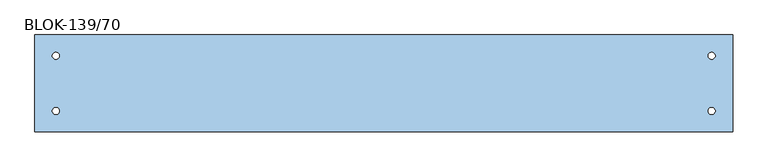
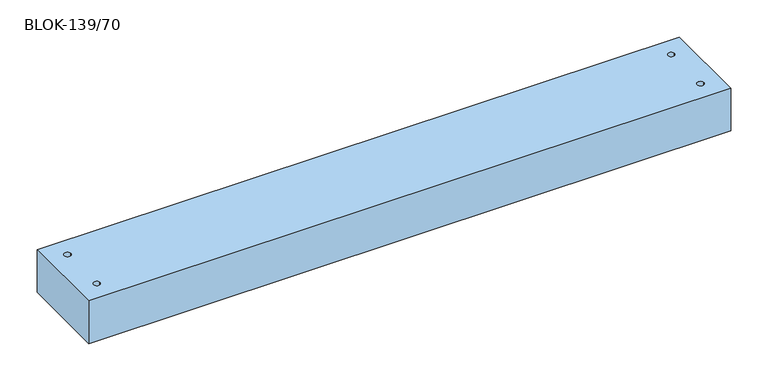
"""IFC4 building model written with IfcOpenShell, lengths in millimetres: window geometry, 30_NS_BLOk : BLOK-139/70."""

import ifcopenshell
import ifcopenshell.guid

model = None  # the IFC model being written
_history = None  # IfcOwnerHistory: only IFC2X3 demands one
_inside = {}  # id of a spatial element -> (the spatial element, [elements in it])
_under = {}  # id of a project, library or spatial element -> (it, [spatial elements below it])
_declared = {}  # id of a project -> (the project, [libraries it declares])
_typed = {}  # id of a type object -> (the type object, [elements of that type])
_made_of = {}  # id of a material, layer set ... -> (it, [elements and type objects made of it])


def new_model(schema):
    """Start an empty IFC model of exactly this schema.

    Asked for "IFC4X3", IfcOpenShell would pick the latest addendum, in which some entities
    have other attributes; the version numbers below select the first issue.
    IFC2X3 requires an IfcOwnerHistory on every rooted entity: one is made here for all.
    """
    global model, _history
    if schema == "IFC4X3":
        model = ifcopenshell.file(schema_version=(4, 3, 0, 0))
    else:
        model = ifcopenshell.file(schema=schema)
    _inside.clear()
    _under.clear()
    _declared.clear()
    _typed.clear()
    _made_of.clear()
    _history = None
    if model.schema == "IFC2X3":
        org = make("IfcOrganization", Name="unknown")
        user = make(
            "IfcPersonAndOrganization",
            ThePerson=make("IfcPerson", FamilyName="unknown"),
            TheOrganization=org,
        )
        app = make(
            "IfcApplication",
            ApplicationDeveloper=org,
            Version="unknown",
            ApplicationFullName="unknown",
            ApplicationIdentifier="unknown",
        )
        _history = make(
            "IfcOwnerHistory",
            OwningUser=user,
            OwningApplication=app,
            ChangeAction="ADDED",
            CreationDate=0,
        )
    return model


def make(cls, **values):
    """One entity of the class cls with the attributes given. An attribute that is None is left unset."""
    return model.create_entity(
        cls, **{name: value for name, value in values.items() if value is not None}
    )


def rooted(cls, **values):
    """An entity with a GlobalId (a new one), such as an element, a storey or a relation."""
    return make(cls, GlobalId=ifcopenshell.guid.new(), OwnerHistory=_history, **values)


def si_unit(unit_type, name, prefix=None):
    """IfcSIUnit, for example si_unit("LENGTHUNIT", "METRE", prefix="MILLI")."""
    return make("IfcSIUnit", UnitType=unit_type, Prefix=prefix, Name=name)


def assignment(units):
    """IfcUnitAssignment: the units of a project."""
    return None if units is None else make("IfcUnitAssignment", Units=units)


def point(xyz):
    """IfcCartesianPoint."""
    return None if xyz is None else make("IfcCartesianPoint", Coordinates=xyz)


def direction(xyz):
    """IfcDirection."""
    return None if xyz is None else make("IfcDirection", DirectionRatios=xyz)


def frame(location, z_axis=None, x_axis=None):
    """IfcAxis2Placement3D, a coordinate frame: its origin and axes. An axis left out is left unset."""
    return make(
        "IfcAxis2Placement3D",
        Location=point(location),
        Axis=direction(z_axis),
        RefDirection=direction(x_axis),
    )


def frame_2d(location, x_axis=None):
    """IfcAxis2Placement2D, a coordinate frame in the plane: its origin and x axis."""
    return make(
        "IfcAxis2Placement2D", Location=point(location), RefDirection=direction(x_axis)
    )


def origin():
    """The frame at (0, 0, 0) with its axes left unset."""
    return frame((0.0, 0.0, 0.0))


def origin_with_axes():
    """The frame at (0, 0, 0) with the z axis (0, 0, 1) and the x axis (1, 0, 0) written out."""
    return frame((0.0, 0.0, 0.0), z_axis=(0.0, 0.0, 1.0), x_axis=(1.0, 0.0, 0.0))


def place(relative_to, where):
    """IfcLocalPlacement: puts the frame where relative to a parent placement (None: the world)."""
    return make(
        "IfcLocalPlacement", PlacementRelTo=relative_to, RelativePlacement=where
    )


def context(
    kind, dimensions, precision=None, world=None, true_north=None, identifier=None
):
    """IfcGeometricRepresentationContext, for example the 3D "Model" context."""
    return make(
        "IfcGeometricRepresentationContext",
        ContextIdentifier=identifier,
        ContextType=kind,
        CoordinateSpaceDimension=dimensions,
        Precision=precision,
        WorldCoordinateSystem=world,
        TrueNorth=true_north,
    )


def project(units=None, contexts=None):
    """IfcProject with its units and contexts."""
    return rooted(
        "IfcProject",
        Name="project",
        RepresentationContexts=contexts,
        UnitsInContext=assignment(units),
    )


def spatial(cls, under=None, at=None, **own):
    """A site, building, storey or space (cls), placed at a placement, below another one or the project."""
    s = rooted(cls, ObjectPlacement=at, **own)
    if under is not None:
        _under.setdefault(under.id(), (under, []))[1].append(s)
    return s


def polyline(points):
    """IfcPolyline through the points."""
    return make("IfcPolyline", Points=[point(p) for p in points])


def circle_curve(where, radius):
    """IfcCircle in the frame where."""
    return make("IfcCircle", Position=where, Radius=radius)


def trimmed(basis, trim1, trim2, sense, master):
    """IfcTrimmedCurve: the piece of a basis curve between two trims."""
    return make(
        "IfcTrimmedCurve",
        BasisCurve=basis,
        Trim1=trim1,
        Trim2=trim2,
        SenseAgreement=sense,
        MasterRepresentation=master,
    )


def segment(curve, same_sense, transition):
    """IfcCompositeCurveSegment."""
    return make(
        "IfcCompositeCurveSegment",
        Transition=transition,
        SameSense=same_sense,
        ParentCurve=curve,
    )


def composite_curve(segments, self_intersect=None):
    """IfcCompositeCurve: segments joined end to end."""
    return make("IfcCompositeCurve", Segments=segments, SelfIntersect=self_intersect)


def outline(outer, holes=None, kind="AREA"):
    """IfcArbitraryClosedProfileDef: a profile drawn as a closed curve; with holes, ...WithVoids."""
    if holes is None:
        return make("IfcArbitraryClosedProfileDef", ProfileType=kind, OuterCurve=outer)
    return make(
        "IfcArbitraryProfileDefWithVoids",
        ProfileType=kind,
        OuterCurve=outer,
        InnerCurves=holes,
    )


def extrude(swept, where, along, depth):
    """IfcExtrudedAreaSolid: the profile swept, set in the frame where, extruded along a direction by depth."""
    return make(
        "IfcExtrudedAreaSolid",
        SweptArea=swept,
        Position=where,
        ExtrudedDirection=direction(along),
        Depth=depth,
    )


def shape(context_of_items, identifier, shape_type, items):
    """IfcShapeRepresentation: the items that make up one representation, for example the "Body"."""
    return make(
        "IfcShapeRepresentation",
        ContextOfItems=context_of_items,
        RepresentationIdentifier=identifier,
        RepresentationType=shape_type,
        Items=items,
    )


def source(mapping_origin, context_of_items, identifier, shape_type, items):
    """IfcRepresentationMap: a shape defined once, which mapped items show again and again."""
    return make(
        "IfcRepresentationMap",
        MappingOrigin=mapping_origin,
        MappedRepresentation=shape(context_of_items, identifier, shape_type, items),
    )


def transform(
    local_origin,
    x_axis=None,
    y_axis=None,
    z_axis=None,
    scale=None,
    scale2=None,
    scale3=None,
    uniform=True,
):
    """IfcCartesianTransformationOperator3D, or its non-uniform kind. x_axis, y_axis, z_axis: its Axis1, 2, 3."""
    if uniform:
        return make(
            "IfcCartesianTransformationOperator3D",
            Axis1=direction(x_axis),
            Axis2=direction(y_axis),
            LocalOrigin=point(local_origin),
            Scale=scale,
            Axis3=direction(z_axis),
        )
    return make(
        "IfcCartesianTransformationOperator3DnonUniform",
        Axis1=direction(x_axis),
        Axis2=direction(y_axis),
        LocalOrigin=point(local_origin),
        Scale=scale,
        Axis3=direction(z_axis),
        Scale2=scale2,
        Scale3=scale3,
    )


def mapped(mapping_source, mapping_target):
    """IfcMappedItem: shows the shape of a source again, moved by a transform."""
    return make(
        "IfcMappedItem", MappingSource=mapping_source, MappingTarget=mapping_target
    )


def made_of(thing, what):
    """Note that an element or type object is made of a material, layer set ...; save() writes the relation."""
    if what is not None:
        _made_of.setdefault(what.id(), (what, []))[1].append(thing)
    return thing


def element(
    cls,
    number,
    at=None,
    inside=None,
    cuts=None,
    type_object=None,
    material=None,
    context=None,
    identifier="Body",
    shape_type=None,
    held_by="IfcProductDefinitionShape",
    body=None,
    shapes=None,
    **own,
):
    """One element of the class cls, such as IfcWall. Its Tag is "e" and its number.

    at: its placement. inside: the storey or other place that contains it. cuts: it is an
    opening in that element (IfcRelVoidsElement). A single representation is given by context,
    identifier, shape_type and body (its items); several are given by shapes. held_by: the class
    of the entity that holds the representations. save() writes the other relations.
    """
    e = rooted(cls, Tag="e%d" % number, ObjectPlacement=at, **own)
    if body is not None:
        shapes = [shape(context, identifier, shape_type, body)]
    if shapes is not None:
        e.Representation = make(held_by, Representations=shapes)
    if inside is not None:
        _inside.setdefault(inside.id(), (inside, []))[1].append(e)
    if cuts is not None:
        rooted(
            "IfcRelVoidsElement", RelatingBuildingElement=cuts, RelatedOpeningElement=e
        )
    if type_object is not None:
        _typed.setdefault(type_object.id(), (type_object, []))[1].append(e)
    return made_of(e, material)


def aggregate(whole, parts):
    """IfcRelAggregates: a whole, such as a stair, and the parts it consists of."""
    return rooted("IfcRelAggregates", RelatingObject=whole, RelatedObjects=parts)


def save(model, path):
    """Write the relations noted so far, then the file.

    IfcRelAggregates (storeys below a building ...), IfcRelContainedInSpatialStructure (elements
    in a storey), IfcRelDefinesByType, IfcRelAssociatesMaterial and IfcRelDeclares: one each for
    every whole, place, type object, material and project.
    """
    for whole, parts in _under.values():
        aggregate(whole, parts)
    for where, things in _inside.values():
        rooted(
            "IfcRelContainedInSpatialStructure",
            RelatedElements=things,
            RelatingStructure=where,
        )
    for kind, things in _typed.values():
        rooted("IfcRelDefinesByType", RelatedObjects=things, RelatingType=kind)
    for what, things in _made_of.values():
        rooted("IfcRelAssociatesMaterial", RelatedObjects=things, RelatingMaterial=what)
    for by, libraries in _declared.values():
        rooted("IfcRelDeclares", RelatingContext=by, RelatedDefinitions=libraries)
    model.write(path)


def blok_139_70_7db4ad4a(model_context):
    return source(origin(), model_context, "Body", "SweptSolid", [
        extrude(outline(polyline([(0.0, -139.0), (0.0, 0.0), (1000.0, 0.0), (1000.0, -139.0), (0.0, -139.0)]), holes=[composite_curve([segment(trimmed(circle_curve(frame_2d((30.0, -109.0)), 5.0), [point((25.0, -109.0))], [point((35.0, -109.0))], True, "CARTESIAN"), True, "CONTINUOUS"), segment(trimmed(circle_curve(frame_2d((30.0, -109.0)), 5.0), [point((35.0, -109.0))], [point((25.0, -109.0))], True, "CARTESIAN"), True, "CONTINUOUS")], self_intersect=False), composite_curve([segment(trimmed(circle_curve(frame_2d((30.0, -30.0)), 5.0), [point((25.0, -30.0))], [point((35.0, -30.0))], True, "CARTESIAN"), True, "CONTINUOUS"), segment(trimmed(circle_curve(frame_2d((30.0, -30.0)), 5.0), [point((35.0, -30.0))], [point((25.0, -30.0))], True, "CARTESIAN"), True, "CONTINUOUS")], self_intersect=False), composite_curve([segment(trimmed(circle_curve(frame_2d((970.0, -109.0)), 5.0), [point((965.0, -109.0))], [point((975.0, -109.0))], True, "CARTESIAN"), True, "CONTINUOUS"), segment(trimmed(circle_curve(frame_2d((970.0, -109.0)), 5.0), [point((975.0, -109.0))], [point((965.0, -109.0))], True, "CARTESIAN"), True, "CONTINUOUS")], self_intersect=False), composite_curve([segment(trimmed(circle_curve(frame_2d((970.0, -30.0)), 5.0), [point((965.0, -30.0))], [point((975.0, -30.0))], True, "CARTESIAN"), True, "CONTINUOUS"), segment(trimmed(circle_curve(frame_2d((970.0, -30.0)), 5.0), [point((975.0, -30.0))], [point((965.0, -30.0))], True, "CARTESIAN"), True, "CONTINUOUS")], self_intersect=False)]), origin_with_axes(), (0.0, 0.0, 1.0), 70.0),
    ])


if __name__ == "__main__":
    model = new_model("IFC4")
    model_context = context("Model", 3, world=origin())
    ifc_project = project(units=[si_unit("LENGTHUNIT", "METRE", prefix="MILLI")], contexts=[model_context])
    site = spatial("IfcSite", under=ifc_project)
    building = spatial("IfcBuilding", under=site)
    placement = place(None, origin())
    blok_139_70_shape = blok_139_70_7db4ad4a(model_context)
    element("IfcWindow", 1, ObjectType="30_NS_BLOk : BLOK-139/70", at=placement, inside=building, context=model_context, shape_type="MappedRepresentation", body=[
        mapped(blok_139_70_shape, transform((0.0, 0.0, 0.0), x_axis=(1.0, 0.0, 0.0), y_axis=(0.0, 1.0, 0.0), z_axis=(0.0, 0.0, 1.0))),
    ])
    save(model, "model.ifc")
